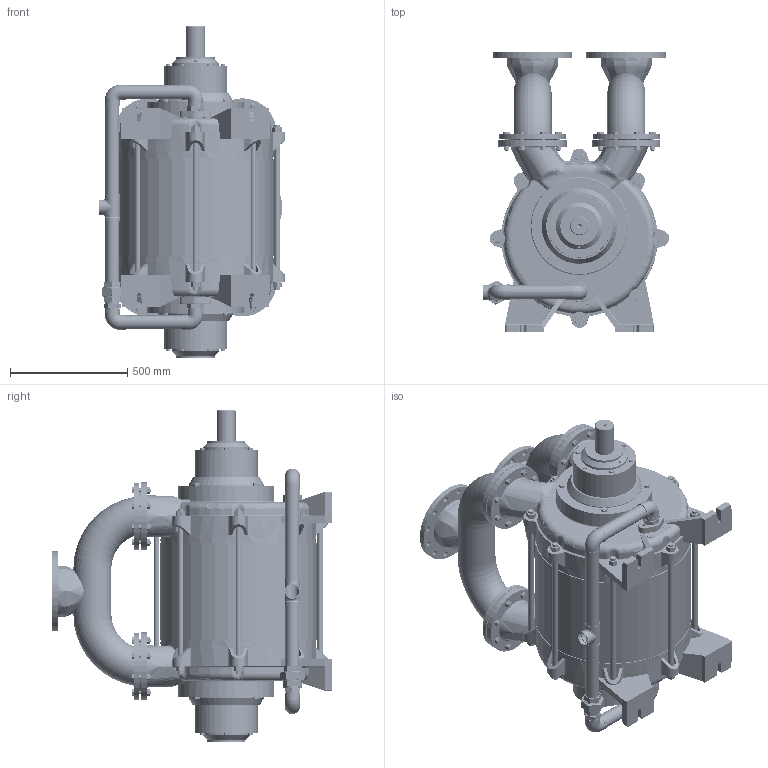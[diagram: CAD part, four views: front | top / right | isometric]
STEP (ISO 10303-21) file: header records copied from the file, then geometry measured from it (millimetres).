
FILE_DESCRIPTION (( 'STEP AP214' ), '1' );
FILE_NAME ('GMPT 520 400 MONTAJ.STEP', '2024-05-15T13:56:30', ( '' ), ( '' ), 'SwSTEP 2.0', 'SolidWorks 2024', '' );
FILE_SCHEMA (( 'AUTOMOTIVE_DESIGN' ));
Length unit declared in the file: millimetre
Products named in the file (1): GMPT 520 400 MONTAJ
Bounding box: 792.54 x 1195.79 x 1414.4 mm (x, y, z)
Volume: 341749870.6 mm3; surface area: 8641184.2 mm2
Topology: 89 solids, 110 shells, 4814 faces, 10878 edges, 6407 vertices
Faces by surface type: plane 1893, cylinder 1302, cone 1038, torus 314, bspline 220, sphere 47
Entity records: 204020 total; most frequent: CARTESIAN_POINT 97432, DIRECTION 22446, ORIENTED_EDGE 21608, EDGE_CURVE 10804, AXIS2_PLACEMENT_3D 9215, VERTEX_POINT 6405, EDGE_LOOP 5333, ADVANCED_FACE 4814
